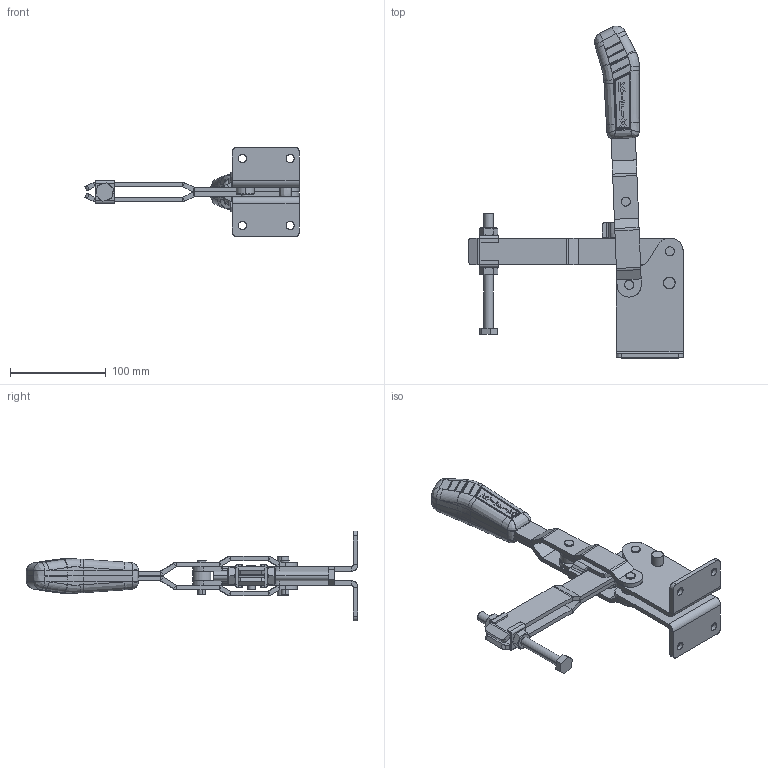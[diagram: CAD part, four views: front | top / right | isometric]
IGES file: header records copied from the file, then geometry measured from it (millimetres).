
Start section: SolidWorks IGES file using analytic representation for surfaces
Global section: file name: C:\Projetos\Grampos\KF-641\KF-641 DB\KF-641 DB.IGS; native system: SolidWorks 2013; preprocessor: SolidWorks 2013; author: Ricardo; date: 140813.172301; units: millimetre
Bounding box: 224.28 x 347.26 x 94 mm (x, y, z)
Surface area: 154198.3 mm2 (no closed solid volume)
Topology: 0 solids, 0 shells, 889 faces, 9452 edges, 9433 vertices
Faces by surface type: bspline 529, revolution 360
